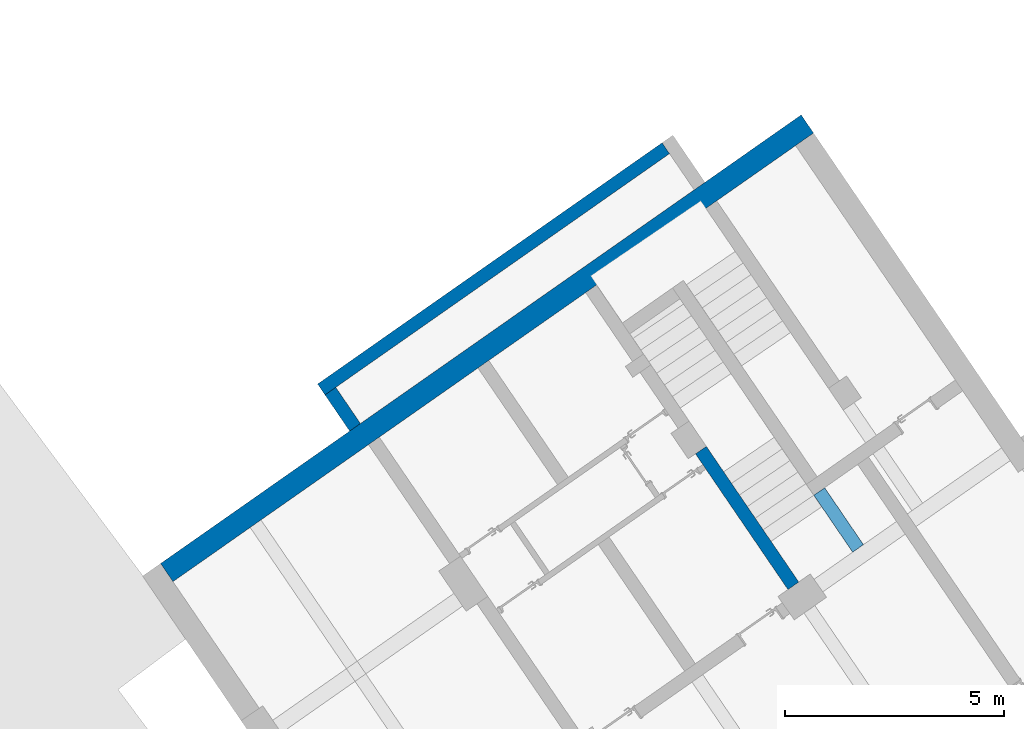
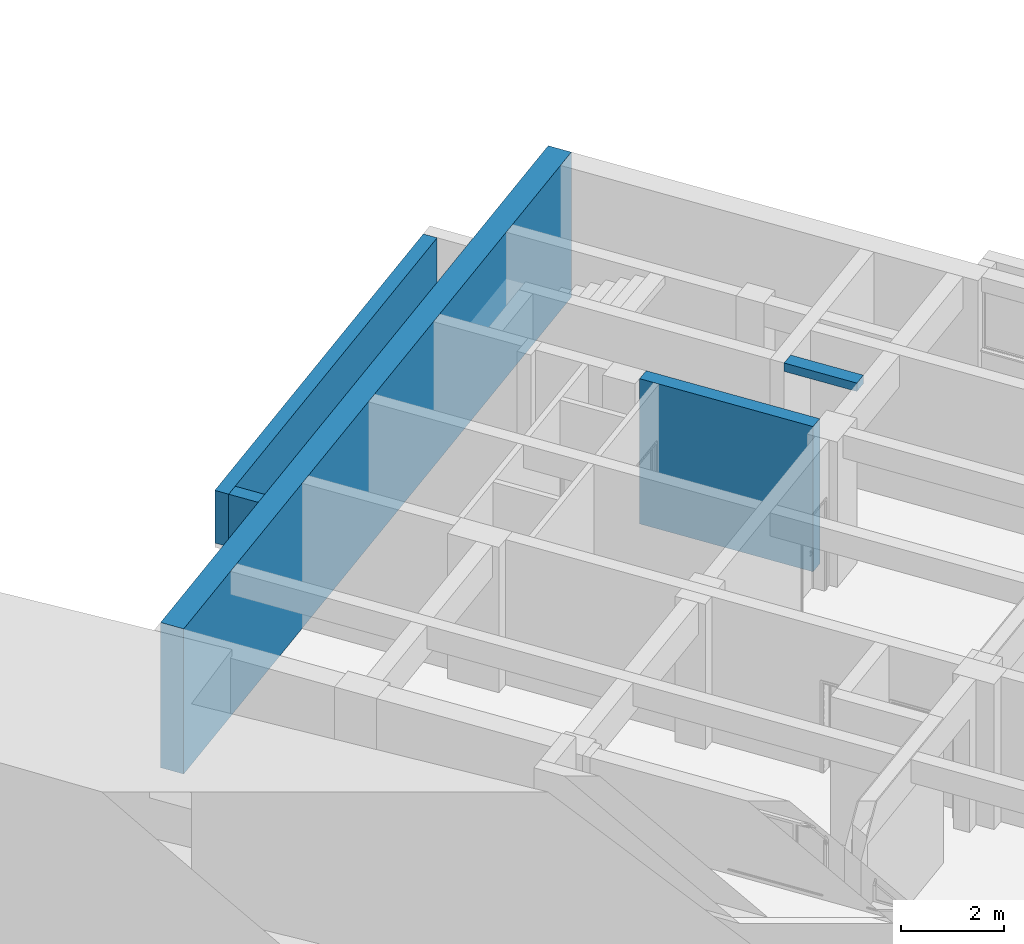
# One storey, part 68 of 112: 5 walls.
"""IFC2X3 building model written with IfcOpenShell, lengths in millimetres."""

from ifc_helpers import new_model, entity, si_unit, converted_unit, derived_unit, direction, frame, frame_2d, origin, place, context, subcontext, project, spatial, polyline, rectangle, outline, extrude, material, layer, layer_set, layer_usage, type_object, element, save


model = new_model("IFC2X3")

# Units and contexts
model_context = context("Model", 3, precision=0.01, world=origin(), true_north=direction((6.123031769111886e-17, 1.0)))
body_context = subcontext(model_context, "Body", "Model", "MODEL_VIEW")
ifc_project = project(units=[si_unit("LENGTHUNIT", "METRE", prefix="MILLI"), si_unit("AREAUNIT", "SQUARE_METRE"), si_unit("VOLUMEUNIT", "CUBIC_METRE"), converted_unit("PLANEANGLEUNIT", "DEGREE", entity("IfcRatioMeasure", 0.017453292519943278), si_unit("PLANEANGLEUNIT", "RADIAN"), dimensions=[0, 0, 0, 0, 0, 0, 0]), si_unit("MASSUNIT", "GRAM", prefix="KILO"), derived_unit("MASSDENSITYUNIT", [(si_unit("MASSUNIT", "GRAM", prefix="KILO"), 1), (si_unit("LENGTHUNIT", "METRE"), -3)]), derived_unit("MOMENTOFINERTIAUNIT", [(si_unit("LENGTHUNIT", "METRE"), 4)]), si_unit("TIMEUNIT", "SECOND"), si_unit("FREQUENCYUNIT", "HERTZ"), si_unit("THERMODYNAMICTEMPERATUREUNIT", "DEGREE_CELSIUS"), derived_unit("THERMALTRANSMITTANCEUNIT", [(si_unit("MASSUNIT", "GRAM", prefix="KILO"), 1), (si_unit("THERMODYNAMICTEMPERATUREUNIT", "KELVIN"), -1), (si_unit("TIMEUNIT", "SECOND"), -3)]), derived_unit("THERMALCONDUCTANCEUNIT", [(si_unit("MASSUNIT", "GRAM", prefix="KILO"), 1), (si_unit("LENGTHUNIT", "METRE"), 1), (si_unit("THERMODYNAMICTEMPERATUREUNIT", "KELVIN"), -1), (si_unit("TIMEUNIT", "SECOND"), -3)]), derived_unit("VOLUMETRICFLOWRATEUNIT", [(si_unit("LENGTHUNIT", "METRE"), 3), (si_unit("TIMEUNIT", "SECOND"), -1)]), derived_unit("MASSFLOWRATEUNIT", [(si_unit("MASSUNIT", "GRAM", prefix="KILO"), 1), (si_unit("TIMEUNIT", "SECOND"), -1)]), derived_unit("ROTATIONALFREQUENCYUNIT", [(si_unit("TIMEUNIT", "SECOND"), -1)]), si_unit("ELECTRICCURRENTUNIT", "AMPERE"), si_unit("ELECTRICVOLTAGEUNIT", "VOLT"), si_unit("POWERUNIT", "WATT"), converted_unit("FORCEUNIT", "KIP", entity("IfcRatioMeasure", 2.088543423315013e-05), si_unit("FORCEUNIT", "NEWTON"), dimensions=[1, 1, -2, 0, 0, 0, 0]), si_unit("ILLUMINANCEUNIT", "LUX"), si_unit("LUMINOUSFLUXUNIT", "LUMEN"), si_unit("LUMINOUSINTENSITYUNIT", "CANDELA"), derived_unit("USERDEFINED", [(si_unit("MASSUNIT", "GRAM", prefix="KILO"), -1), (si_unit("LENGTHUNIT", "METRE"), -2), (si_unit("TIMEUNIT", "SECOND"), 3), (si_unit("LUMINOUSFLUXUNIT", "LUMEN"), 1)]), derived_unit("USERDEFINED", [(si_unit("MASSUNIT", "GRAM", prefix="KILO"), 1), (si_unit("LENGTHUNIT", "METRE"), 3), (si_unit("TIMEUNIT", "SECOND"), -3), (si_unit("ELECTRICCURRENTUNIT", "AMPERE"), -2)]), derived_unit("USERDEFINED", [(si_unit("LENGTHUNIT", "METRE"), 2), (si_unit("TIMEUNIT", "SECOND"), -2)]), derived_unit("SOUNDPOWERUNIT", [(si_unit("MASSUNIT", "GRAM", prefix="KILO"), 1), (si_unit("LENGTHUNIT", "METRE"), 2), (si_unit("TIMEUNIT", "SECOND"), -3)]), derived_unit("SOUNDPRESSUREUNIT", [(si_unit("MASSUNIT", "GRAM", prefix="KILO"), 1), (si_unit("LENGTHUNIT", "METRE"), -1), (si_unit("TIMEUNIT", "SECOND"), -2)]), derived_unit("LINEARVELOCITYUNIT", [(si_unit("LENGTHUNIT", "METRE"), 1), (si_unit("TIMEUNIT", "SECOND"), -1)]), si_unit("PRESSUREUNIT", "PASCAL"), derived_unit("USERDEFINED", [(si_unit("LENGTHUNIT", "METRE"), -2), (si_unit("MASSUNIT", "GRAM", prefix="KILO"), 1), (si_unit("TIMEUNIT", "SECOND"), -2)]), derived_unit("LINEARFORCEUNIT", [(si_unit("MASSUNIT", "GRAM", prefix="KILO"), 1), (si_unit("LENGTHUNIT", "METRE"), 1), (si_unit("TIMEUNIT", "SECOND"), -2), (si_unit("LENGTHUNIT", "METRE"), -1)]), derived_unit("PLANARFORCEUNIT", [(si_unit("MASSUNIT", "GRAM", prefix="KILO"), 1), (si_unit("LENGTHUNIT", "METRE"), 1), (si_unit("TIMEUNIT", "SECOND"), -2), (si_unit("LENGTHUNIT", "METRE"), -2)]), derived_unit("SPECIFICHEATCAPACITYUNIT", [(si_unit("LENGTHUNIT", "METRE"), 2), (si_unit("TIMEUNIT", "SECOND"), -2), (si_unit("THERMODYNAMICTEMPERATUREUNIT", "KELVIN"), -1)]), derived_unit("VAPORPERMEABILITYUNIT", [(si_unit("TIMEUNIT", "SECOND"), 1), (si_unit("LENGTHUNIT", "METRE"), -1)]), derived_unit("DYNAMICVISCOSITYUNIT", [(si_unit("MASSUNIT", "GRAM", prefix="KILO"), 1), (si_unit("LENGTHUNIT", "METRE"), -1), (si_unit("TIMEUNIT", "SECOND"), -1)]), derived_unit("THERMALEXPANSIONCOEFFICIENTUNIT", [(si_unit("THERMODYNAMICTEMPERATUREUNIT", "KELVIN"), -1)])], contexts=[model_context])

# Site, building, storey
site_placement = place(None, frame((0.0, 0.0, 0.0), z_axis=(0.0, 0.0, 1.0), x_axis=(0.8191520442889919, 0.5735764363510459, 0.0)))
site = spatial("IfcSite", under=ifc_project, at=site_placement, Name="Default", CompositionType="ELEMENT")
building_placement = place(site_placement, origin())
building = spatial("IfcBuilding", under=site, at=building_placement, CompositionType="ELEMENT")
storey_placement = place(building_placement, frame((0.0, 0.0, -3600.0)))
storey = spatial("IfcBuildingStorey", under=building, at=storey_placement, Name="0.UG -3.60", CompositionType="ELEMENT", Elevation=-3600.0000000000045)

# Walls
ifc_material = material(Name="Analytical Wall Surface_CJC")
ifc_layer_1 = layer(ifc_material, 300.0)
ifc_layer_set_1 = layer_set([ifc_layer_1], Name="Basic Wall:Wand_Innen_30")
ifc_layer_usage_1 = layer_usage(ifc_layer_set_1, "AXIS2", "NEGATIVE", 150.0)
wall_type_1 = type_object("IfcWallType", Name="Basic Wall:Wand_Innen_30", PredefinedType="STANDARD", material=ifc_layer_set_1)
wall_1_placement = place(storey_placement, frame((-210328.30778597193, 164318.96332930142, 0.0), z_axis=(0.0, 0.0, 1.0), x_axis=(0.012729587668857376, 0.999918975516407, 0.0)))
element("IfcWallStandardCase", 1, at=wall_1_placement, inside=storey, type_object=wall_type_1, material=ifc_layer_usage_1, Name="Basic Wall:Wand_Innen_30", ObjectType="Basic Wall:Wand_Innen_30", context=body_context, shape_type="SweptSolid", body=[
    extrude(rectangle(XDim=3748.2439288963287, YDim=300.00000000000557, at=frame_2d((1874.1219644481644, -4.604316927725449e-12), x_axis=(-1.0, 0.0))), origin(), (0.0, 0.0, 1.0), 3450.0),
])
wall_2_placement = place(storey_placement, frame((-208630.07343711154, 164169.44947620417, 3250.0), z_axis=(0.0, 0.0, 1.0), x_axis=(0.012729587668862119, 0.9999189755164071, 0.0)))
element("IfcWallStandardCase", 2, at=wall_2_placement, inside=storey, type_object=wall_type_1, material=ifc_layer_usage_1, Name="Basic Wall:Wand_Innen_30", ObjectType="Basic Wall:Wand_Innen_30", context=body_context, shape_type="SweptSolid", body=[
    extrude(outline(polyline([(1574.48637776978, -150.0), (1574.4863777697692, 150.0), (0.0, 150.0), (3.8191857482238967, -150.0), (1574.48637776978, -150.0)])), origin(), (0.0, 0.0, 1.0), 200.0),
])
ifc_layer_2 = layer(ifc_material, 500.00000000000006)
ifc_layer_set_2 = layer_set([ifc_layer_2], Name="Basic Wall:Wand_Aussen_50")
ifc_layer_usage_2 = layer_usage(ifc_layer_set_2, "AXIS2", "NEGATIVE", 250.00000000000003)
wall_type_2 = type_object("IfcWallType", Name="Basic Wall:Wand_Aussen_50", PredefinedType="STANDARD", material=ifc_layer_set_2)
wall_3_placement = place(storey_placement, frame((-221874.83022329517, 172771.35891435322, 0.0)))
element("IfcWallStandardCase", 3, at=wall_3_placement, inside=storey, type_object=wall_type_2, material=ifc_layer_usage_2, Name="Basic Wall:Wand_Aussen_50", ObjectType="Basic Wall:Wand_Aussen_50", context=body_context, shape_type="SweptSolid", body=[
    extrude(outline(polyline([(17851.4464591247, -250.0), (17857.811657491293, 250.0), (6.3653095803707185, 250.0), (0.0, -250.0), (5450.441619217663, -250.0), (5750.465928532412, -250.0), (8500.70091857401, -250.0), (8800.725227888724, -250.0), (11500.93185706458, -250.0), (11800.956166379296, -250.0), (14851.20331107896, -250.0), (15151.227620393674, -250.0), (17351.40594501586, -250.0), (17851.4464591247, -250.0)])), origin(), (0.0, 0.0, 1.0), 3450.000000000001),
])
ifc_layer_3 = layer(ifc_material, 300.0)
ifc_layer_set_3 = layer_set([ifc_layer_3], Name="Basic Wall:Wand_Aussen_30")
ifc_layer_usage_3 = layer_usage(ifc_layer_set_3, "AXIS2", "POSITIVE", -150.0)
wall_type_3 = type_object("IfcWallType", Name="Basic Wall:Wand_Aussen_30", PredefinedType="STANDARD", material=ifc_layer_set_3)
wall_4_placement = place(storey_placement, frame((-206982.2006796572, 174171.3589143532, 1600.0), z_axis=(0.0, 0.0, 1.0), x_axis=(-1.0, 0.0, 0.0)))
element("IfcWallStandardCase", 4, at=wall_4_placement, inside=storey, type_object=wall_type_3, material=ifc_layer_usage_3, Name="Basic Wall:Wand_Aussen_30", ObjectType="Basic Wall:Wand_Aussen_30", context=body_context, shape_type="SweptSolid", body=[
    extrude(outline(polyline([(9600.52062449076, -150.0), (9604.33981023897, 150.0), (9304.315500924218, 150.0), (3.819185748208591, 150.0), (0.0, -150.0), (9600.52062449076, -150.0)])), origin(), (0.0, 0.0, 1.0), 1250.0),
])
wall_5_placement = place(storey_placement, frame((-216436.5040269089, 174023.26835250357, 1600.0), z_axis=(0.0, 0.0, 1.0), x_axis=(-0.012729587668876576, -0.9999189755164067, 0.0)))
element("IfcWallStandardCase", 5, at=wall_5_placement, inside=storey, type_object=wall_type_3, material=ifc_layer_usage_3, Name="Basic Wall:Wand_Aussen_30", ObjectType="Basic Wall:Wand_Aussen_30", context=body_context, shape_type="SweptSolid", body=[
    extrude(outline(polyline([(1003.9002167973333, -150.0), (1000.0810310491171, 150.0), (0.0, 150.0), (3.8191857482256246, -150.0), (1003.9002167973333, -150.0)])), origin(), (0.0, 0.0, 1.0), 1250.0),
])

save(model, "model.ifc")
